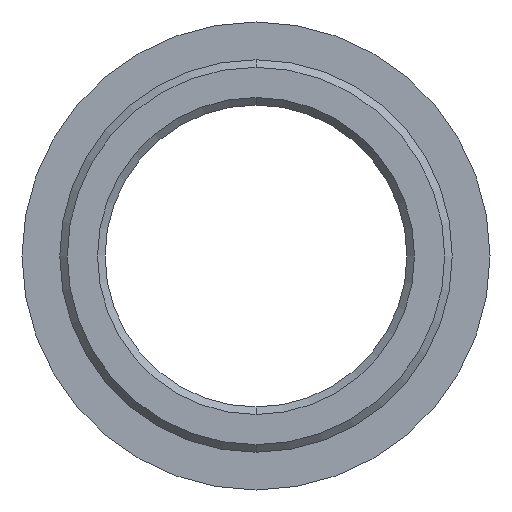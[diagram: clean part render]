
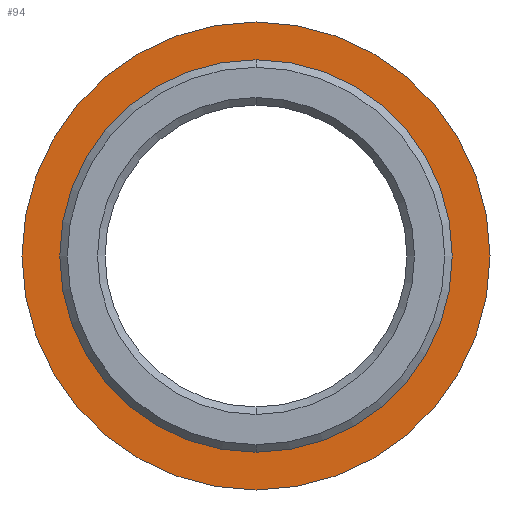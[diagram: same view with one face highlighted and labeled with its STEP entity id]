
A CAD part, left-side view. The second image highlights one B-rep face of the part: STEP entity #94.
In plain terms, the highlighted free-form (B-spline) face has degree [1, 1] with [2, 2] control points.
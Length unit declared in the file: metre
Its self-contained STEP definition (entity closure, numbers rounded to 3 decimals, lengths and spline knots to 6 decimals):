
#94 = ADVANCED_FACE( '', ( #142, #143 ), #144, .F. );
#142 = FACE_BOUND( '', #223, .T. );
#143 = FACE_OUTER_BOUND( '', #224, .T. );
#144 = B_SPLINE_SURFACE_WITH_KNOTS( '', 1, 1, ( ( #225, #226 ), ( #227, #228 ) ), .UNSPECIFIED., .F., .F., .F., ( 2, 2 ), ( 2, 2 ), ( 0., 1. ), ( 0., 1. ), .UNSPECIFIED. );
#223 = EDGE_LOOP( '', ( #383, #384 ) );
#224 = EDGE_LOOP( '', ( #385, #386 ) );
#225 = CARTESIAN_POINT( '', ( 0.009, -0.015686, 0.015686 ) );
#226 = CARTESIAN_POINT( '', ( 0.009, 0.015686, 0.015686 ) );
#227 = CARTESIAN_POINT( '', ( 0.009, -0.015686, -0.015686 ) );
#228 = CARTESIAN_POINT( '', ( 0.009, 0.015686, -0.015686 ) );
#383 = ORIENTED_EDGE( '', *, *, #476, .T. );
#384 = ORIENTED_EDGE( '', *, *, #475, .T. );
#385 = ORIENTED_EDGE( '', *, *, #481, .F. );
#386 = ORIENTED_EDGE( '', *, *, #482, .F. );
#475 = EDGE_CURVE( '', #545, #547, #549, .F. );
#476 = EDGE_CURVE( '', #547, #545, #550, .F. );
#481 = EDGE_CURVE( '', #557, #558, #559, .F. );
#482 = EDGE_CURVE( '', #558, #557, #560, .F. );
#545 = VERTEX_POINT( '', #639 );
#547 = VERTEX_POINT( '', #642 );
#549 = CIRCLE( '', #645, 0.0125 );
#550 = CIRCLE( '', #646, 0.0125 );
#557 = VERTEX_POINT( '', #655 );
#558 = VERTEX_POINT( '', #656 );
#559 = CIRCLE( '', #657, 0.0155 );
#560 = CIRCLE( '', #658, 0.0155 );
#639 = CARTESIAN_POINT( '', ( 0.009, 0., -0.0125 ) );
#642 = CARTESIAN_POINT( '', ( 0.009, 0., 0.0125 ) );
#645 = AXIS2_PLACEMENT_3D( '', #755, #756, #757 );
#646 = AXIS2_PLACEMENT_3D( '', #758, #759, #760 );
#655 = CARTESIAN_POINT( '', ( 0.009, 0., 0.0155 ) );
#656 = CARTESIAN_POINT( '', ( 0.009, 0., -0.0155 ) );
#657 = AXIS2_PLACEMENT_3D( '', #769, #770, #771 );
#658 = AXIS2_PLACEMENT_3D( '', #772, #773, #774 );
#755 = CARTESIAN_POINT( '', ( 0.009, 0., 0. ) );
#756 = DIRECTION( '', ( -1., 0., 0. ) );
#757 = DIRECTION( '', ( 0., 0., 1. ) );
#758 = CARTESIAN_POINT( '', ( 0.009, 0., 0. ) );
#759 = DIRECTION( '', ( -1., 0., 0. ) );
#760 = DIRECTION( '', ( 0., 0., 1. ) );
#769 = CARTESIAN_POINT( '', ( 0.009, 0., 0. ) );
#770 = DIRECTION( '', ( -1., 0., 0. ) );
#771 = DIRECTION( '', ( 0., 0., 1. ) );
#772 = CARTESIAN_POINT( '', ( 0.009, 0., 0. ) );
#773 = DIRECTION( '', ( -1., 0., 0. ) );
#774 = DIRECTION( '', ( 0., 0., 1. ) );
